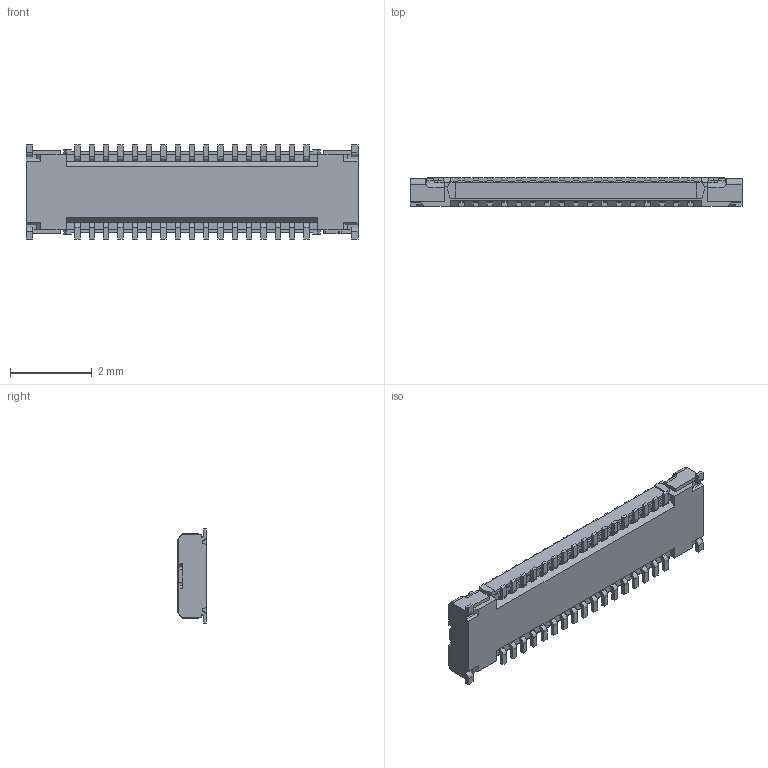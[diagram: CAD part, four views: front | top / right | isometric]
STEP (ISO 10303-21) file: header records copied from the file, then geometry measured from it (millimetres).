
FILE_DESCRIPTION (( 'STEP AP203' ), '1' );
FILE_NAME ('20708-034E-01+20709-034E-01C MATING STEP R1R2 ALL.STEP', '2025-02-28T09:08:28', ( '' ), ( '' ), 'SwSTEP 2.0', 'SolidWorks 2023', '' );
FILE_SCHEMA (( 'CONFIG_CONTROL_DESIGN' ));
Length unit declared in the file: millimetre
Products named in the file (1): 20708-034E-01+20709-034E-01C MATING STEP R1R2 ALL
Bounding box: 8.12 x 0.7 x 2.3 mm (x, y, z)
Volume: 9.9 mm3; surface area: 62.1 mm2
Topology: 1 solids, 1 shells, 916 faces, 2545 edges, 1666 vertices
Faces by surface type: plane 802, cylinder 114
Entity records: 28902 total; most frequent: CARTESIAN_POINT 5248, ORIENTED_EDGE 5090, DIRECTION 4579, EDGE_CURVE 2545, VECTOR 2289, LINE 2289, VERTEX_POINT 1666, AXIS2_PLACEMENT_3D 1145
